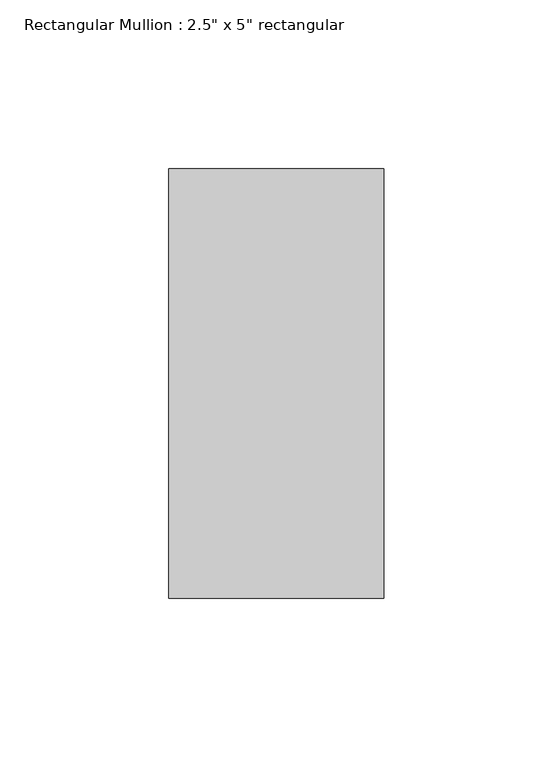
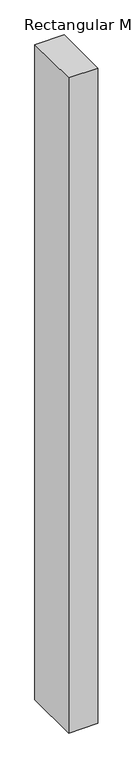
"""IFC4 building model written with IfcOpenShell, lengths in millimetres: member geometry."""

from ifc_helpers import new_model, si_unit, frame, origin, place, context, project, spatial, polyline, outline, extrude, source, transform, mapped, element, save


def member_fc09b6aa(model_context):
    return source(origin(), model_context, "Body", "SweptSolid", [
        extrude(outline(polyline([(31.75, 63.5), (31.75, -63.5), (-31.75, -63.5), (-31.75, 63.5), (31.75, 63.5)])), frame((0.0, 0.0, -1509.8888889), z_axis=(0.0, 0.0, 1.0), x_axis=(1.0, 0.0, 0.0)), (0.0, 0.0, 1.0), 1509.8888889),
    ])


if __name__ == "__main__":
    model = new_model("IFC4")
    model_context = context("Model", 3, world=origin())
    ifc_project = project(units=[si_unit("LENGTHUNIT", "METRE", prefix="MILLI")], contexts=[model_context])
    site = spatial("IfcSite", under=ifc_project)
    building = spatial("IfcBuilding", under=site)
    placement = place(None, origin())
    member_shape = member_fc09b6aa(model_context)
    element("IfcMember", 1, ObjectType="Rectangular Mullion : 2.5\" x 5\" rectangular", at=placement, inside=building, context=model_context, shape_type="MappedRepresentation", body=[
        mapped(member_shape, transform((0.0, 0.0, 0.0), x_axis=(1.0, 0.0, 0.0), y_axis=(0.0, 1.0, 0.0), z_axis=(0.0, 0.0, 1.0))),
    ])
    save(model, "model.ifc")
